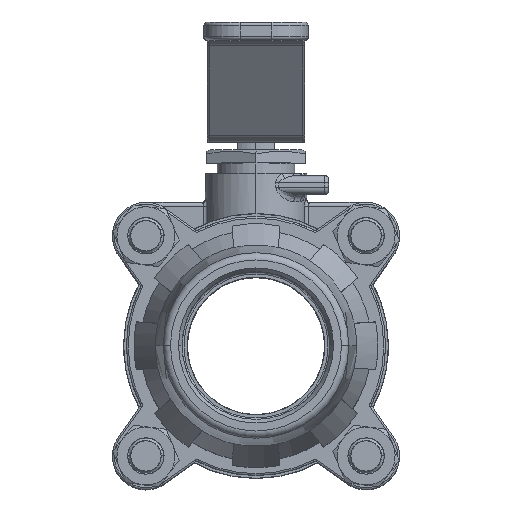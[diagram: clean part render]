
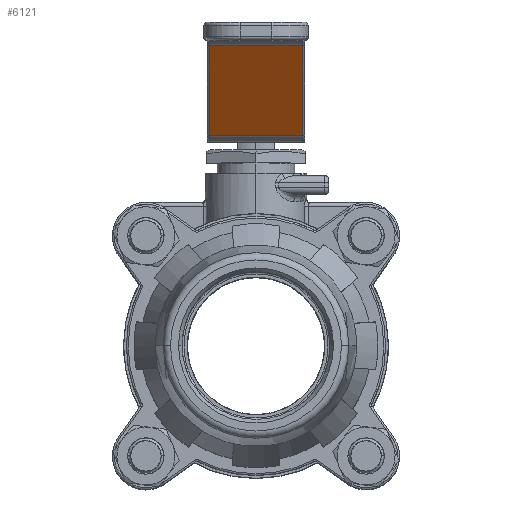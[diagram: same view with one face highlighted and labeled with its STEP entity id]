
A CAD part, top view. The second image highlights one B-rep face of the part: STEP entity #6121.
In plain terms, the highlighted planar face has unit normal (0, -0.604, 0.797) as drawn and (-0.604, 0, 0.797) by its records, which use the part's own axes.
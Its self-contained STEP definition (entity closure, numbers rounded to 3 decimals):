
#1793 = VERTEX_POINT ( 'NONE', #18014 ) ;
#3915 = PLANE ( 'NONE',  #23414 ) ;
#5728 = ORIENTED_EDGE ( 'NONE', *, *, #21680, .T. ) ;
#5794 = ORIENTED_EDGE ( 'NONE', *, *, #7089, .T. ) ;
#5893 = EDGE_CURVE ( 'NONE', #1793, #12493, #15600, .T. ) ;
#6121 = ADVANCED_FACE ( 'NONE', ( #24113 ), #3915, .F. ) ;
#7089 = EDGE_CURVE ( 'NONE', #11200, #18673, #16980, .T. ) ;
#9164 = DIRECTION ( 'NONE',  ( 0., -1., 0. ) ) ;
#10954 = VECTOR ( 'NONE', #22325, 1000. ) ;
#11200 = VERTEX_POINT ( 'NONE', #14360 ) ;
#11224 = CARTESIAN_POINT ( 'NONE',  ( 58.081, 12.9, 31.501 ) ) ;
#12180 = EDGE_LOOP ( 'NONE', ( #25355, #15873, #5728, #5794 ) ) ;
#12493 = VERTEX_POINT ( 'NONE', #24261 ) ;
#13677 = CARTESIAN_POINT ( 'NONE',  ( 82.739, 13.4, 50.183 ) ) ;
#14360 = CARTESIAN_POINT ( 'NONE',  ( 58.081, -12.9, 31.501 ) ) ;
#14567 = LINE ( 'NONE', #13677, #21315 ) ;
#14730 = CARTESIAN_POINT ( 'NONE',  ( 58.081, 13.4, 31.501 ) ) ;
#14907 = VECTOR ( 'NONE', #15777, 1000. ) ;
#15175 = CARTESIAN_POINT ( 'NONE',  ( 58.081, 13.4, 31.501 ) ) ;
#15600 = LINE ( 'NONE', #11224, #14907 ) ;
#15777 = DIRECTION ( 'NONE',  ( -0.797, 0., -0.604 ) ) ;
#15873 = ORIENTED_EDGE ( 'NONE', *, *, #5893, .T. ) ;
#16980 = LINE ( 'NONE', #29022, #10954 ) ;
#17202 = LINE ( 'NONE', #14730, #29207 ) ;
#18014 = CARTESIAN_POINT ( 'NONE',  ( 82.739, 12.9, 50.183 ) ) ;
#18673 = VERTEX_POINT ( 'NONE', #22036 ) ;
#19751 = DIRECTION ( 'NONE',  ( -0.797, 0., -0.604 ) ) ;
#21315 = VECTOR ( 'NONE', #9164, 1000. ) ;
#21680 = EDGE_CURVE ( 'NONE', #12493, #11200, #17202, .T. ) ;
#21910 = DIRECTION ( 'NONE',  ( 0.604, 0., -0.797 ) ) ;
#22036 = CARTESIAN_POINT ( 'NONE',  ( 82.739, -12.9, 50.183 ) ) ;
#22325 = DIRECTION ( 'NONE',  ( 0.797, 0., 0.604 ) ) ;
#23414 = AXIS2_PLACEMENT_3D ( 'NONE', #15175, #21910, #19751 ) ;
#24113 = FACE_OUTER_BOUND ( 'NONE', #12180, .T. ) ;
#24261 = CARTESIAN_POINT ( 'NONE',  ( 58.081, 12.9, 31.501 ) ) ;
#25355 = ORIENTED_EDGE ( 'NONE', *, *, #26566, .F. ) ;
#26027 = DIRECTION ( 'NONE',  ( 0., -1., 0. ) ) ;
#26566 = EDGE_CURVE ( 'NONE', #1793, #18673, #14567, .T. ) ;
#29022 = CARTESIAN_POINT ( 'NONE',  ( 58.081, -12.9, 31.501 ) ) ;
#29207 = VECTOR ( 'NONE', #26027, 1000. ) ;
